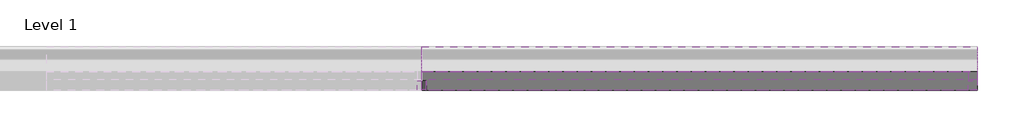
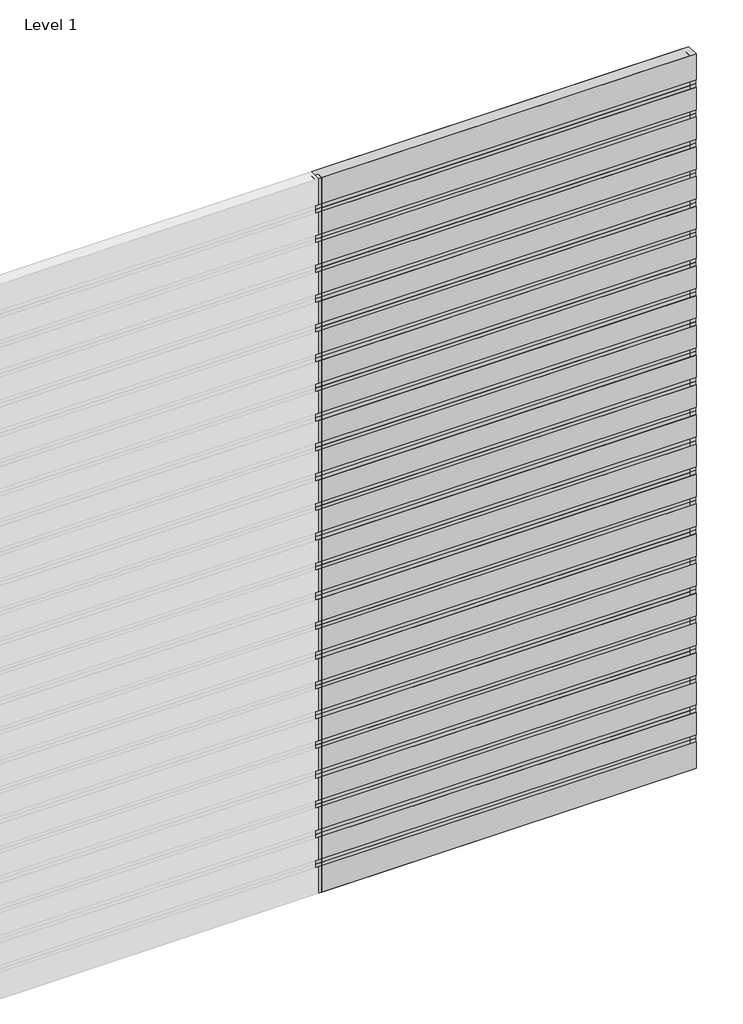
# One storey, part 2 of 2: 59 members, 48 plates.
"""IFC4 building model written with IfcOpenShell, lengths in millimetres."""

from ifc_helpers import new_model, si_unit, origin, place, context, project, spatial, transform, mapped, element, save
from components import rectangular_mullion_dafef153, rectangular_mullion_552ac5bc, rectangular_mullion_b779000f, empty_system_panel_empty_4dce7524, empty_system_panel_empty_164fccf4, empty_system_panel_empty_839ed214

model = new_model("IFC4")

# Units and contexts
model_context = context("Model", 3, world=origin())
ifc_project = project(units=[si_unit("LENGTHUNIT", "METRE", prefix="MILLI")], contexts=[model_context])

# Site, building, storey
site = spatial("IfcSite", under=ifc_project)
building = spatial("IfcBuilding", under=site)
storey = spatial("IfcBuildingStorey", under=building, Name="Level 1", Elevation=0.0)

# Members
placement = place(None, origin())
rectangular_mullion_shape = rectangular_mullion_dafef153(model_context)
element("IfcMember", 1, ObjectType="Rectangular Mullion : RSen_21_CWM_blade - 250 ellips - 45°_gen_duco projects", at=placement, inside=storey, context=model_context, shape_type="MappedRepresentation", body=[
    mapped(rectangular_mullion_shape, transform((3000.0, 3000.0, 3250.0), x_axis=(0.0, 0.0, 1.0), y_axis=(0.0, 1.0, 0.0), z_axis=(-1.0, 0.0, 0.0))),
])
element("IfcMember", 2, ObjectType="Rectangular Mullion : RSen_21_CWM_blade - 250 ellips - 45°_gen_duco projects", at=placement, inside=storey, context=model_context, shape_type="MappedRepresentation", body=[
    mapped(rectangular_mullion_shape, transform((3000.0, 3000.0, 3500.0), x_axis=(0.0, 0.0, 1.0), y_axis=(0.0, 1.0, 0.0), z_axis=(-1.0, 0.0, 0.0))),
])
element("IfcMember", 3, ObjectType="Rectangular Mullion : RSen_21_CWM_blade - 250 ellips - 45°_gen_duco projects", at=placement, inside=storey, context=model_context, shape_type="MappedRepresentation", body=[
    mapped(rectangular_mullion_shape, transform((3000.0, 3000.0, 3750.0), x_axis=(0.0, 0.0, 1.0), y_axis=(0.0, 1.0, 0.0), z_axis=(-1.0, 0.0, 0.0))),
])
element("IfcMember", 4, ObjectType="Rectangular Mullion : RSen_21_CWM_blade - 250 ellips - 45°_gen_duco projects", at=placement, inside=storey, context=model_context, shape_type="MappedRepresentation", body=[
    mapped(rectangular_mullion_shape, transform((3000.0, 3000.0, 4000.0), x_axis=(0.0, 0.0, 1.0), y_axis=(0.0, 1.0, 0.0), z_axis=(-1.0, 0.0, 0.0))),
])
element("IfcMember", 5, ObjectType="Rectangular Mullion : RSen_21_CWM_blade - 250 ellips - 45°_gen_duco projects", at=placement, inside=storey, context=model_context, shape_type="MappedRepresentation", body=[
    mapped(rectangular_mullion_shape, transform((3000.0, 3000.0, 4250.0), x_axis=(0.0, 0.0, 1.0), y_axis=(0.0, 1.0, 0.0), z_axis=(-1.0, 0.0, 0.0))),
])
element("IfcMember", 6, ObjectType="Rectangular Mullion : RSen_21_CWM_blade - 250 ellips - 45°_gen_duco projects", at=placement, inside=storey, context=model_context, shape_type="MappedRepresentation", body=[
    mapped(rectangular_mullion_shape, transform((3000.0, 3000.0, 4500.0), x_axis=(0.0, 0.0, 1.0), y_axis=(0.0, 1.0, 0.0), z_axis=(-1.0, 0.0, 0.0))),
])
element("IfcMember", 7, ObjectType="Rectangular Mullion : RSen_21_CWM_blade - 250 ellips - 45°_gen_duco projects", at=placement, inside=storey, context=model_context, shape_type="MappedRepresentation", body=[
    mapped(rectangular_mullion_shape, transform((3000.0, 3000.0, 4750.0), x_axis=(0.0, 0.0, 1.0), y_axis=(0.0, 1.0, 0.0), z_axis=(-1.0, 0.0, 0.0))),
])
element("IfcMember", 8, ObjectType="Rectangular Mullion : RSen_21_CWM_blade - 250 ellips - 45°_gen_duco projects", at=placement, inside=storey, context=model_context, shape_type="MappedRepresentation", body=[
    mapped(rectangular_mullion_shape, transform((3000.0, 3000.0, 5000.0), x_axis=(0.0, 0.0, 1.0), y_axis=(0.0, 1.0, 0.0), z_axis=(-1.0, 0.0, 0.0))),
])
element("IfcMember", 9, ObjectType="Rectangular Mullion : RSen_21_CWM_blade - 250 ellips - 45°_gen_duco projects", at=placement, inside=storey, context=model_context, shape_type="MappedRepresentation", body=[
    mapped(rectangular_mullion_shape, transform((3000.0, 3000.0, 5250.0), x_axis=(0.0, 0.0, 1.0), y_axis=(0.0, 1.0, 0.0), z_axis=(-1.0, 0.0, 0.0))),
])
element("IfcMember", 10, ObjectType="Rectangular Mullion : RSen_21_CWM_blade - 250 ellips - 45°_gen_duco projects", at=placement, inside=storey, context=model_context, shape_type="MappedRepresentation", body=[
    mapped(rectangular_mullion_shape, transform((3000.0, 3000.0, 5500.0), x_axis=(0.0, 0.0, 1.0), y_axis=(0.0, 1.0, 0.0), z_axis=(-1.0, 0.0, 0.0))),
])
element("IfcMember", 11, ObjectType="Rectangular Mullion : RSen_21_CWM_blade - 250 ellips - 45°_gen_duco projects", at=placement, inside=storey, context=model_context, shape_type="MappedRepresentation", body=[
    mapped(rectangular_mullion_shape, transform((3000.0, 3000.0, 5750.0), x_axis=(0.0, 0.0, 1.0), y_axis=(0.0, 1.0, 0.0), z_axis=(-1.0, 0.0, 0.0))),
])
rectangular_mullion_2_shape = rectangular_mullion_552ac5bc(model_context)
element("IfcMember", 12, ObjectType="Rectangular Mullion : RSen_21_CWM_support profile 50x50_gen_duco projects", at=placement, inside=storey, context=model_context, shape_type="MappedRepresentation", body=[
    mapped(rectangular_mullion_2_shape, transform((3000.0, 3000.0, 0.0), x_axis=(-1.0, 0.0, 0.0), y_axis=(0.0, 1.0, 0.0), z_axis=(0.0, 0.0, -1.0))),
])
element("IfcMember", 13, ObjectType="Rectangular Mullion : RSen_21_CWM_support profile 50x50_gen_duco projects", at=placement, inside=storey, context=model_context, shape_type="MappedRepresentation", body=[
    mapped(rectangular_mullion_2_shape, transform((3000.0, 3000.0, 250.0), x_axis=(-1.0, 0.0, 0.0), y_axis=(0.0, 1.0, 0.0), z_axis=(0.0, 0.0, -1.0))),
])
element("IfcMember", 14, ObjectType="Rectangular Mullion : RSen_21_CWM_support profile 50x50_gen_duco projects", at=placement, inside=storey, context=model_context, shape_type="MappedRepresentation", body=[
    mapped(rectangular_mullion_2_shape, transform((3000.0, 3000.0, 500.0), x_axis=(-1.0, 0.0, 0.0), y_axis=(0.0, 1.0, 0.0), z_axis=(0.0, 0.0, -1.0))),
])
element("IfcMember", 15, ObjectType="Rectangular Mullion : RSen_21_CWM_support profile 50x50_gen_duco projects", at=placement, inside=storey, context=model_context, shape_type="MappedRepresentation", body=[
    mapped(rectangular_mullion_2_shape, transform((3000.0, 3000.0, 750.0), x_axis=(-1.0, 0.0, 0.0), y_axis=(0.0, 1.0, 0.0), z_axis=(0.0, 0.0, -1.0))),
])
element("IfcMember", 16, ObjectType="Rectangular Mullion : RSen_21_CWM_support profile 50x50_gen_duco projects", at=placement, inside=storey, context=model_context, shape_type="MappedRepresentation", body=[
    mapped(rectangular_mullion_2_shape, transform((3000.0, 3000.0, 1000.0), x_axis=(-1.0, 0.0, 0.0), y_axis=(0.0, 1.0, 0.0), z_axis=(0.0, 0.0, -1.0))),
])
element("IfcMember", 17, ObjectType="Rectangular Mullion : RSen_21_CWM_support profile 50x50_gen_duco projects", at=placement, inside=storey, context=model_context, shape_type="MappedRepresentation", body=[
    mapped(rectangular_mullion_2_shape, transform((3000.0, 3000.0, 1250.0), x_axis=(-1.0, 0.0, 0.0), y_axis=(0.0, 1.0, 0.0), z_axis=(0.0, 0.0, -1.0))),
])
element("IfcMember", 18, ObjectType="Rectangular Mullion : RSen_21_CWM_support profile 50x50_gen_duco projects", at=placement, inside=storey, context=model_context, shape_type="MappedRepresentation", body=[
    mapped(rectangular_mullion_2_shape, transform((3000.0, 3000.0, 1500.0), x_axis=(-1.0, 0.0, 0.0), y_axis=(0.0, 1.0, 0.0), z_axis=(0.0, 0.0, -1.0))),
])
element("IfcMember", 19, ObjectType="Rectangular Mullion : RSen_21_CWM_support profile 50x50_gen_duco projects", at=placement, inside=storey, context=model_context, shape_type="MappedRepresentation", body=[
    mapped(rectangular_mullion_2_shape, transform((3000.0, 3000.0, 1750.0), x_axis=(-1.0, 0.0, 0.0), y_axis=(0.0, 1.0, 0.0), z_axis=(0.0, 0.0, -1.0))),
])
element("IfcMember", 20, ObjectType="Rectangular Mullion : RSen_21_CWM_support profile 50x50_gen_duco projects", at=placement, inside=storey, context=model_context, shape_type="MappedRepresentation", body=[
    mapped(rectangular_mullion_2_shape, transform((3000.0, 3000.0, 2000.0), x_axis=(-1.0, 0.0, 0.0), y_axis=(0.0, 1.0, 0.0), z_axis=(0.0, 0.0, -1.0))),
])
element("IfcMember", 21, ObjectType="Rectangular Mullion : RSen_21_CWM_support profile 50x50_gen_duco projects", at=placement, inside=storey, context=model_context, shape_type="MappedRepresentation", body=[
    mapped(rectangular_mullion_2_shape, transform((3000.0, 3000.0, 2250.0), x_axis=(-1.0, 0.0, 0.0), y_axis=(0.0, 1.0, 0.0), z_axis=(0.0, 0.0, -1.0))),
])
element("IfcMember", 22, ObjectType="Rectangular Mullion : RSen_21_CWM_support profile 50x50_gen_duco projects", at=placement, inside=storey, context=model_context, shape_type="MappedRepresentation", body=[
    mapped(rectangular_mullion_2_shape, transform((3000.0, 3000.0, 2500.0), x_axis=(-1.0, 0.0, 0.0), y_axis=(0.0, 1.0, 0.0), z_axis=(0.0, 0.0, -1.0))),
])
element("IfcMember", 23, ObjectType="Rectangular Mullion : RSen_21_CWM_support profile 50x50_gen_duco projects", at=placement, inside=storey, context=model_context, shape_type="MappedRepresentation", body=[
    mapped(rectangular_mullion_2_shape, transform((3000.0, 3000.0, 2750.0), x_axis=(-1.0, 0.0, 0.0), y_axis=(0.0, 1.0, 0.0), z_axis=(0.0, 0.0, -1.0))),
])
element("IfcMember", 24, ObjectType="Rectangular Mullion : RSen_21_CWM_support profile 50x50_gen_duco projects", at=placement, inside=storey, context=model_context, shape_type="MappedRepresentation", body=[
    mapped(rectangular_mullion_2_shape, transform((3000.0, 3000.0, 3000.0), x_axis=(-1.0, 0.0, 0.0), y_axis=(0.0, 1.0, 0.0), z_axis=(0.0, 0.0, -1.0))),
])
element("IfcMember", 25, ObjectType="Rectangular Mullion : RSen_21_CWM_support profile 50x50_gen_duco projects", at=placement, inside=storey, context=model_context, shape_type="MappedRepresentation", body=[
    mapped(rectangular_mullion_2_shape, transform((3000.0, 3000.0, 3250.0), x_axis=(-1.0, 0.0, 0.0), y_axis=(0.0, 1.0, 0.0), z_axis=(0.0, 0.0, -1.0))),
])
element("IfcMember", 26, ObjectType="Rectangular Mullion : RSen_21_CWM_support profile 50x50_gen_duco projects", at=placement, inside=storey, context=model_context, shape_type="MappedRepresentation", body=[
    mapped(rectangular_mullion_2_shape, transform((3000.0, 3000.0, 3500.0), x_axis=(-1.0, 0.0, 0.0), y_axis=(0.0, 1.0, 0.0), z_axis=(0.0, 0.0, -1.0))),
])
element("IfcMember", 27, ObjectType="Rectangular Mullion : RSen_21_CWM_support profile 50x50_gen_duco projects", at=placement, inside=storey, context=model_context, shape_type="MappedRepresentation", body=[
    mapped(rectangular_mullion_2_shape, transform((3000.0, 3000.0, 3750.0), x_axis=(-1.0, 0.0, 0.0), y_axis=(0.0, 1.0, 0.0), z_axis=(0.0, 0.0, -1.0))),
])
element("IfcMember", 28, ObjectType="Rectangular Mullion : RSen_21_CWM_support profile 50x50_gen_duco projects", at=placement, inside=storey, context=model_context, shape_type="MappedRepresentation", body=[
    mapped(rectangular_mullion_2_shape, transform((3000.0, 3000.0, 4000.0), x_axis=(-1.0, 0.0, 0.0), y_axis=(0.0, 1.0, 0.0), z_axis=(0.0, 0.0, -1.0))),
])
element("IfcMember", 29, ObjectType="Rectangular Mullion : RSen_21_CWM_support profile 50x50_gen_duco projects", at=placement, inside=storey, context=model_context, shape_type="MappedRepresentation", body=[
    mapped(rectangular_mullion_2_shape, transform((3000.0, 3000.0, 4250.0), x_axis=(-1.0, 0.0, 0.0), y_axis=(0.0, 1.0, 0.0), z_axis=(0.0, 0.0, -1.0))),
])
element("IfcMember", 30, ObjectType="Rectangular Mullion : RSen_21_CWM_support profile 50x50_gen_duco projects", at=placement, inside=storey, context=model_context, shape_type="MappedRepresentation", body=[
    mapped(rectangular_mullion_2_shape, transform((3000.0, 3000.0, 4500.0), x_axis=(-1.0, 0.0, 0.0), y_axis=(0.0, 1.0, 0.0), z_axis=(0.0, 0.0, -1.0))),
])
element("IfcMember", 31, ObjectType="Rectangular Mullion : RSen_21_CWM_support profile 50x50_gen_duco projects", at=placement, inside=storey, context=model_context, shape_type="MappedRepresentation", body=[
    mapped(rectangular_mullion_2_shape, transform((3000.0, 3000.0, 4750.0), x_axis=(-1.0, 0.0, 0.0), y_axis=(0.0, 1.0, 0.0), z_axis=(0.0, 0.0, -1.0))),
])
element("IfcMember", 32, ObjectType="Rectangular Mullion : RSen_21_CWM_support profile 50x50_gen_duco projects", at=placement, inside=storey, context=model_context, shape_type="MappedRepresentation", body=[
    mapped(rectangular_mullion_2_shape, transform((3000.0, 3000.0, 5000.0), x_axis=(-1.0, 0.0, 0.0), y_axis=(0.0, 1.0, 0.0), z_axis=(0.0, 0.0, -1.0))),
])
element("IfcMember", 33, ObjectType="Rectangular Mullion : RSen_21_CWM_support profile 50x50_gen_duco projects", at=placement, inside=storey, context=model_context, shape_type="MappedRepresentation", body=[
    mapped(rectangular_mullion_2_shape, transform((3000.0, 3000.0, 5250.0), x_axis=(-1.0, 0.0, 0.0), y_axis=(0.0, 1.0, 0.0), z_axis=(0.0, 0.0, -1.0))),
])
element("IfcMember", 34, ObjectType="Rectangular Mullion : RSen_21_CWM_support profile 50x50_gen_duco projects", at=placement, inside=storey, context=model_context, shape_type="MappedRepresentation", body=[
    mapped(rectangular_mullion_2_shape, transform((3000.0, 3000.0, 5500.0), x_axis=(-1.0, 0.0, 0.0), y_axis=(0.0, 1.0, 0.0), z_axis=(0.0, 0.0, -1.0))),
])
element("IfcMember", 35, ObjectType="Rectangular Mullion : RSen_21_CWM_support profile 50x50_gen_duco projects", at=placement, inside=storey, context=model_context, shape_type="MappedRepresentation", body=[
    mapped(rectangular_mullion_2_shape, transform((3000.0, 3000.0, 5750.0), x_axis=(-1.0, 0.0, 0.0), y_axis=(0.0, 1.0, 0.0), z_axis=(0.0, 0.0, -1.0))),
])
rectangular_mullion_3_shape = rectangular_mullion_b779000f(model_context)
element("IfcMember", 36, ObjectType="Rectangular Mullion : RSen_21_CWM_support profile 50x50 - right_gen_duco projects", at=placement, inside=storey, context=model_context, shape_type="MappedRepresentation", body=[
    mapped(rectangular_mullion_3_shape, transform((6000.0, 3000.0, 6000.0), x_axis=(1.0, 0.0, 0.0), y_axis=(0.0, 1.0, 0.0), z_axis=(0.0, 0.0, 1.0))),
])
element("IfcMember", 37, ObjectType="Rectangular Mullion : RSen_21_CWM_support profile 50x50 - right_gen_duco projects", at=placement, inside=storey, context=model_context, shape_type="MappedRepresentation", body=[
    mapped(rectangular_mullion_3_shape, transform((6000.0, 3000.0, 250.0), x_axis=(1.0, 0.0, 0.0), y_axis=(0.0, 1.0, 0.0), z_axis=(0.0, 0.0, 1.0))),
])
element("IfcMember", 38, ObjectType="Rectangular Mullion : RSen_21_CWM_support profile 50x50 - right_gen_duco projects", at=placement, inside=storey, context=model_context, shape_type="MappedRepresentation", body=[
    mapped(rectangular_mullion_3_shape, transform((6000.0, 3000.0, 500.0), x_axis=(1.0, 0.0, 0.0), y_axis=(0.0, 1.0, 0.0), z_axis=(0.0, 0.0, 1.0))),
])
element("IfcMember", 39, ObjectType="Rectangular Mullion : RSen_21_CWM_support profile 50x50 - right_gen_duco projects", at=placement, inside=storey, context=model_context, shape_type="MappedRepresentation", body=[
    mapped(rectangular_mullion_3_shape, transform((6000.0, 3000.0, 750.0), x_axis=(1.0, 0.0, 0.0), y_axis=(0.0, 1.0, 0.0), z_axis=(0.0, 0.0, 1.0))),
])
element("IfcMember", 40, ObjectType="Rectangular Mullion : RSen_21_CWM_support profile 50x50 - right_gen_duco projects", at=placement, inside=storey, context=model_context, shape_type="MappedRepresentation", body=[
    mapped(rectangular_mullion_3_shape, transform((6000.0, 3000.0, 1000.0), x_axis=(1.0, 0.0, 0.0), y_axis=(0.0, 1.0, 0.0), z_axis=(0.0, 0.0, 1.0))),
])
element("IfcMember", 41, ObjectType="Rectangular Mullion : RSen_21_CWM_support profile 50x50 - right_gen_duco projects", at=placement, inside=storey, context=model_context, shape_type="MappedRepresentation", body=[
    mapped(rectangular_mullion_3_shape, transform((6000.0, 3000.0, 1250.0), x_axis=(1.0, 0.0, 0.0), y_axis=(0.0, 1.0, 0.0), z_axis=(0.0, 0.0, 1.0))),
])
element("IfcMember", 42, ObjectType="Rectangular Mullion : RSen_21_CWM_support profile 50x50 - right_gen_duco projects", at=placement, inside=storey, context=model_context, shape_type="MappedRepresentation", body=[
    mapped(rectangular_mullion_3_shape, transform((6000.0, 3000.0, 1500.0), x_axis=(1.0, 0.0, 0.0), y_axis=(0.0, 1.0, 0.0), z_axis=(0.0, 0.0, 1.0))),
])
element("IfcMember", 43, ObjectType="Rectangular Mullion : RSen_21_CWM_support profile 50x50 - right_gen_duco projects", at=placement, inside=storey, context=model_context, shape_type="MappedRepresentation", body=[
    mapped(rectangular_mullion_3_shape, transform((6000.0, 3000.0, 1750.0), x_axis=(1.0, 0.0, 0.0), y_axis=(0.0, 1.0, 0.0), z_axis=(0.0, 0.0, 1.0))),
])
element("IfcMember", 44, ObjectType="Rectangular Mullion : RSen_21_CWM_support profile 50x50 - right_gen_duco projects", at=placement, inside=storey, context=model_context, shape_type="MappedRepresentation", body=[
    mapped(rectangular_mullion_3_shape, transform((6000.0, 3000.0, 2000.0), x_axis=(1.0, 0.0, 0.0), y_axis=(0.0, 1.0, 0.0), z_axis=(0.0, 0.0, 1.0))),
])
element("IfcMember", 45, ObjectType="Rectangular Mullion : RSen_21_CWM_support profile 50x50 - right_gen_duco projects", at=placement, inside=storey, context=model_context, shape_type="MappedRepresentation", body=[
    mapped(rectangular_mullion_3_shape, transform((6000.0, 3000.0, 2250.0), x_axis=(1.0, 0.0, 0.0), y_axis=(0.0, 1.0, 0.0), z_axis=(0.0, 0.0, 1.0))),
])
element("IfcMember", 46, ObjectType="Rectangular Mullion : RSen_21_CWM_support profile 50x50 - right_gen_duco projects", at=placement, inside=storey, context=model_context, shape_type="MappedRepresentation", body=[
    mapped(rectangular_mullion_3_shape, transform((6000.0, 3000.0, 2500.0), x_axis=(1.0, 0.0, 0.0), y_axis=(0.0, 1.0, 0.0), z_axis=(0.0, 0.0, 1.0))),
])
element("IfcMember", 47, ObjectType="Rectangular Mullion : RSen_21_CWM_support profile 50x50 - right_gen_duco projects", at=placement, inside=storey, context=model_context, shape_type="MappedRepresentation", body=[
    mapped(rectangular_mullion_3_shape, transform((6000.0, 3000.0, 2750.0), x_axis=(1.0, 0.0, 0.0), y_axis=(0.0, 1.0, 0.0), z_axis=(0.0, 0.0, 1.0))),
])
element("IfcMember", 48, ObjectType="Rectangular Mullion : RSen_21_CWM_support profile 50x50 - right_gen_duco projects", at=placement, inside=storey, context=model_context, shape_type="MappedRepresentation", body=[
    mapped(rectangular_mullion_3_shape, transform((6000.0, 3000.0, 3000.0), x_axis=(1.0, 0.0, 0.0), y_axis=(0.0, 1.0, 0.0), z_axis=(0.0, 0.0, 1.0))),
])
element("IfcMember", 49, ObjectType="Rectangular Mullion : RSen_21_CWM_support profile 50x50 - right_gen_duco projects", at=placement, inside=storey, context=model_context, shape_type="MappedRepresentation", body=[
    mapped(rectangular_mullion_3_shape, transform((6000.0, 3000.0, 3250.0), x_axis=(1.0, 0.0, 0.0), y_axis=(0.0, 1.0, 0.0), z_axis=(0.0, 0.0, 1.0))),
])
element("IfcMember", 50, ObjectType="Rectangular Mullion : RSen_21_CWM_support profile 50x50 - right_gen_duco projects", at=placement, inside=storey, context=model_context, shape_type="MappedRepresentation", body=[
    mapped(rectangular_mullion_3_shape, transform((6000.0, 3000.0, 3500.0), x_axis=(1.0, 0.0, 0.0), y_axis=(0.0, 1.0, 0.0), z_axis=(0.0, 0.0, 1.0))),
])
element("IfcMember", 51, ObjectType="Rectangular Mullion : RSen_21_CWM_support profile 50x50 - right_gen_duco projects", at=placement, inside=storey, context=model_context, shape_type="MappedRepresentation", body=[
    mapped(rectangular_mullion_3_shape, transform((6000.0, 3000.0, 3750.0), x_axis=(1.0, 0.0, 0.0), y_axis=(0.0, 1.0, 0.0), z_axis=(0.0, 0.0, 1.0))),
])
element("IfcMember", 52, ObjectType="Rectangular Mullion : RSen_21_CWM_support profile 50x50 - right_gen_duco projects", at=placement, inside=storey, context=model_context, shape_type="MappedRepresentation", body=[
    mapped(rectangular_mullion_3_shape, transform((6000.0, 3000.0, 4000.0), x_axis=(1.0, 0.0, 0.0), y_axis=(0.0, 1.0, 0.0), z_axis=(0.0, 0.0, 1.0))),
])
element("IfcMember", 53, ObjectType="Rectangular Mullion : RSen_21_CWM_support profile 50x50 - right_gen_duco projects", at=placement, inside=storey, context=model_context, shape_type="MappedRepresentation", body=[
    mapped(rectangular_mullion_3_shape, transform((6000.0, 3000.0, 4250.0), x_axis=(1.0, 0.0, 0.0), y_axis=(0.0, 1.0, 0.0), z_axis=(0.0, 0.0, 1.0))),
])
element("IfcMember", 54, ObjectType="Rectangular Mullion : RSen_21_CWM_support profile 50x50 - right_gen_duco projects", at=placement, inside=storey, context=model_context, shape_type="MappedRepresentation", body=[
    mapped(rectangular_mullion_3_shape, transform((6000.0, 3000.0, 4500.0), x_axis=(1.0, 0.0, 0.0), y_axis=(0.0, 1.0, 0.0), z_axis=(0.0, 0.0, 1.0))),
])
element("IfcMember", 55, ObjectType="Rectangular Mullion : RSen_21_CWM_support profile 50x50 - right_gen_duco projects", at=placement, inside=storey, context=model_context, shape_type="MappedRepresentation", body=[
    mapped(rectangular_mullion_3_shape, transform((6000.0, 3000.0, 4750.0), x_axis=(1.0, 0.0, 0.0), y_axis=(0.0, 1.0, 0.0), z_axis=(0.0, 0.0, 1.0))),
])
element("IfcMember", 56, ObjectType="Rectangular Mullion : RSen_21_CWM_support profile 50x50 - right_gen_duco projects", at=placement, inside=storey, context=model_context, shape_type="MappedRepresentation", body=[
    mapped(rectangular_mullion_3_shape, transform((6000.0, 3000.0, 5000.0), x_axis=(1.0, 0.0, 0.0), y_axis=(0.0, 1.0, 0.0), z_axis=(0.0, 0.0, 1.0))),
])
element("IfcMember", 57, ObjectType="Rectangular Mullion : RSen_21_CWM_support profile 50x50 - right_gen_duco projects", at=placement, inside=storey, context=model_context, shape_type="MappedRepresentation", body=[
    mapped(rectangular_mullion_3_shape, transform((6000.0, 3000.0, 5250.0), x_axis=(1.0, 0.0, 0.0), y_axis=(0.0, 1.0, 0.0), z_axis=(0.0, 0.0, 1.0))),
])
element("IfcMember", 58, ObjectType="Rectangular Mullion : RSen_21_CWM_support profile 50x50 - right_gen_duco projects", at=placement, inside=storey, context=model_context, shape_type="MappedRepresentation", body=[
    mapped(rectangular_mullion_3_shape, transform((6000.0, 3000.0, 5500.0), x_axis=(1.0, 0.0, 0.0), y_axis=(0.0, 1.0, 0.0), z_axis=(0.0, 0.0, 1.0))),
])
element("IfcMember", 59, ObjectType="Rectangular Mullion : RSen_21_CWM_support profile 50x50 - right_gen_duco projects", at=placement, inside=storey, context=model_context, shape_type="MappedRepresentation", body=[
    mapped(rectangular_mullion_3_shape, transform((6000.0, 3000.0, 5750.0), x_axis=(1.0, 0.0, 0.0), y_axis=(0.0, 1.0, 0.0), z_axis=(0.0, 0.0, 1.0))),
])

# Plates
empty_system_panel_empty_shape = empty_system_panel_empty_4dce7524(model_context)
element("IfcPlate", 60, ObjectType="Empty System Panel : Empty", at=placement, inside=storey, context=model_context, shape_type="MappedRepresentation", body=[
    mapped(empty_system_panel_empty_shape, transform((4500.0, 3000.0, 0.0), x_axis=(-1.0, 0.0, 0.0), y_axis=(0.0, -1.0, 0.0), z_axis=(0.0, 0.0, 1.0))),
])
element("IfcPlate", 61, ObjectType="Empty System Panel : Empty", at=placement, inside=storey, context=model_context, shape_type="MappedRepresentation", body=[
    mapped(empty_system_panel_empty_shape, transform((4500.0, 3000.0, 5780.759145), x_axis=(-1.0, 0.0, 0.0), y_axis=(0.0, -1.0, 0.0), z_axis=(0.0, 0.0, 1.0))),
])
empty_system_panel_empty_2_shape = empty_system_panel_empty_164fccf4(model_context)
element("IfcPlate", 62, ObjectType="Empty System Panel : Empty", at=placement, inside=storey, context=model_context, shape_type="MappedRepresentation", body=[
    mapped(empty_system_panel_empty_2_shape, transform((4500.0, 3000.0, 280.759145), x_axis=(-1.0, 0.0, 0.0), y_axis=(0.0, -1.0, 0.0), z_axis=(0.0, 0.0, 1.0))),
])
element("IfcPlate", 63, ObjectType="Empty System Panel : Empty", at=placement, inside=storey, context=model_context, shape_type="MappedRepresentation", body=[
    mapped(empty_system_panel_empty_2_shape, transform((4500.0, 3000.0, 530.759145), x_axis=(-1.0, 0.0, 0.0), y_axis=(0.0, -1.0, 0.0), z_axis=(0.0, 0.0, 1.0))),
])
element("IfcPlate", 64, ObjectType="Empty System Panel : Empty", at=placement, inside=storey, context=model_context, shape_type="MappedRepresentation", body=[
    mapped(empty_system_panel_empty_2_shape, transform((4500.0, 3000.0, 780.759145), x_axis=(-1.0, 0.0, 0.0), y_axis=(0.0, -1.0, 0.0), z_axis=(0.0, 0.0, 1.0))),
])
element("IfcPlate", 65, ObjectType="Empty System Panel : Empty", at=placement, inside=storey, context=model_context, shape_type="MappedRepresentation", body=[
    mapped(empty_system_panel_empty_2_shape, transform((4500.0, 3000.0, 1030.759145), x_axis=(-1.0, 0.0, 0.0), y_axis=(0.0, -1.0, 0.0), z_axis=(0.0, 0.0, 1.0))),
])
element("IfcPlate", 66, ObjectType="Empty System Panel : Empty", at=placement, inside=storey, context=model_context, shape_type="MappedRepresentation", body=[
    mapped(empty_system_panel_empty_2_shape, transform((4500.0, 3000.0, 1280.759145), x_axis=(-1.0, 0.0, 0.0), y_axis=(0.0, -1.0, 0.0), z_axis=(0.0, 0.0, 1.0))),
])
element("IfcPlate", 67, ObjectType="Empty System Panel : Empty", at=placement, inside=storey, context=model_context, shape_type="MappedRepresentation", body=[
    mapped(empty_system_panel_empty_2_shape, transform((4500.0, 3000.0, 1530.759145), x_axis=(-1.0, 0.0, 0.0), y_axis=(0.0, -1.0, 0.0), z_axis=(0.0, 0.0, 1.0))),
])
element("IfcPlate", 68, ObjectType="Empty System Panel : Empty", at=placement, inside=storey, context=model_context, shape_type="MappedRepresentation", body=[
    mapped(empty_system_panel_empty_2_shape, transform((4500.0, 3000.0, 1780.759145), x_axis=(-1.0, 0.0, 0.0), y_axis=(0.0, -1.0, 0.0), z_axis=(0.0, 0.0, 1.0))),
])
element("IfcPlate", 69, ObjectType="Empty System Panel : Empty", at=placement, inside=storey, context=model_context, shape_type="MappedRepresentation", body=[
    mapped(empty_system_panel_empty_2_shape, transform((4500.0, 3000.0, 2030.759145), x_axis=(-1.0, 0.0, 0.0), y_axis=(0.0, -1.0, 0.0), z_axis=(0.0, 0.0, 1.0))),
])
element("IfcPlate", 70, ObjectType="Empty System Panel : Empty", at=placement, inside=storey, context=model_context, shape_type="MappedRepresentation", body=[
    mapped(empty_system_panel_empty_2_shape, transform((4500.0, 3000.0, 2280.759145), x_axis=(-1.0, 0.0, 0.0), y_axis=(0.0, -1.0, 0.0), z_axis=(0.0, 0.0, 1.0))),
])
element("IfcPlate", 71, ObjectType="Empty System Panel : Empty", at=placement, inside=storey, context=model_context, shape_type="MappedRepresentation", body=[
    mapped(empty_system_panel_empty_2_shape, transform((4500.0, 3000.0, 2530.759145), x_axis=(-1.0, 0.0, 0.0), y_axis=(0.0, -1.0, 0.0), z_axis=(0.0, 0.0, 1.0))),
])
element("IfcPlate", 72, ObjectType="Empty System Panel : Empty", at=placement, inside=storey, context=model_context, shape_type="MappedRepresentation", body=[
    mapped(empty_system_panel_empty_2_shape, transform((4500.0, 3000.0, 2780.759145), x_axis=(-1.0, 0.0, 0.0), y_axis=(0.0, -1.0, 0.0), z_axis=(0.0, 0.0, 1.0))),
])
element("IfcPlate", 73, ObjectType="Empty System Panel : Empty", at=placement, inside=storey, context=model_context, shape_type="MappedRepresentation", body=[
    mapped(empty_system_panel_empty_2_shape, transform((4500.0, 3000.0, 3030.759145), x_axis=(-1.0, 0.0, 0.0), y_axis=(0.0, -1.0, 0.0), z_axis=(0.0, 0.0, 1.0))),
])
element("IfcPlate", 74, ObjectType="Empty System Panel : Empty", at=placement, inside=storey, context=model_context, shape_type="MappedRepresentation", body=[
    mapped(empty_system_panel_empty_2_shape, transform((4500.0, 3000.0, 3280.759145), x_axis=(-1.0, 0.0, 0.0), y_axis=(0.0, -1.0, 0.0), z_axis=(0.0, 0.0, 1.0))),
])
element("IfcPlate", 75, ObjectType="Empty System Panel : Empty", at=placement, inside=storey, context=model_context, shape_type="MappedRepresentation", body=[
    mapped(empty_system_panel_empty_2_shape, transform((4500.0, 3000.0, 3530.759145), x_axis=(-1.0, 0.0, 0.0), y_axis=(0.0, -1.0, 0.0), z_axis=(0.0, 0.0, 1.0))),
])
element("IfcPlate", 76, ObjectType="Empty System Panel : Empty", at=placement, inside=storey, context=model_context, shape_type="MappedRepresentation", body=[
    mapped(empty_system_panel_empty_2_shape, transform((4500.0, 3000.0, 3780.759145), x_axis=(-1.0, 0.0, 0.0), y_axis=(0.0, -1.0, 0.0), z_axis=(0.0, 0.0, 1.0))),
])
element("IfcPlate", 77, ObjectType="Empty System Panel : Empty", at=placement, inside=storey, context=model_context, shape_type="MappedRepresentation", body=[
    mapped(empty_system_panel_empty_2_shape, transform((4500.0, 3000.0, 4030.759145), x_axis=(-1.0, 0.0, 0.0), y_axis=(0.0, -1.0, 0.0), z_axis=(0.0, 0.0, 1.0))),
])
element("IfcPlate", 78, ObjectType="Empty System Panel : Empty", at=placement, inside=storey, context=model_context, shape_type="MappedRepresentation", body=[
    mapped(empty_system_panel_empty_2_shape, transform((4500.0, 3000.0, 4280.759145), x_axis=(-1.0, 0.0, 0.0), y_axis=(0.0, -1.0, 0.0), z_axis=(0.0, 0.0, 1.0))),
])
element("IfcPlate", 79, ObjectType="Empty System Panel : Empty", at=placement, inside=storey, context=model_context, shape_type="MappedRepresentation", body=[
    mapped(empty_system_panel_empty_2_shape, transform((4500.0, 3000.0, 4530.759145), x_axis=(-1.0, 0.0, 0.0), y_axis=(0.0, -1.0, 0.0), z_axis=(0.0, 0.0, 1.0))),
])
element("IfcPlate", 80, ObjectType="Empty System Panel : Empty", at=placement, inside=storey, context=model_context, shape_type="MappedRepresentation", body=[
    mapped(empty_system_panel_empty_2_shape, transform((4500.0, 3000.0, 4780.759145), x_axis=(-1.0, 0.0, 0.0), y_axis=(0.0, -1.0, 0.0), z_axis=(0.0, 0.0, 1.0))),
])
element("IfcPlate", 81, ObjectType="Empty System Panel : Empty", at=placement, inside=storey, context=model_context, shape_type="MappedRepresentation", body=[
    mapped(empty_system_panel_empty_2_shape, transform((4500.0, 3000.0, 5030.759145), x_axis=(-1.0, 0.0, 0.0), y_axis=(0.0, -1.0, 0.0), z_axis=(0.0, 0.0, 1.0))),
])
element("IfcPlate", 82, ObjectType="Empty System Panel : Empty", at=placement, inside=storey, context=model_context, shape_type="MappedRepresentation", body=[
    mapped(empty_system_panel_empty_2_shape, transform((4500.0, 3000.0, 5280.759145), x_axis=(-1.0, 0.0, 0.0), y_axis=(0.0, -1.0, 0.0), z_axis=(0.0, 0.0, 1.0))),
])
element("IfcPlate", 83, ObjectType="Empty System Panel : Empty", at=placement, inside=storey, context=model_context, shape_type="MappedRepresentation", body=[
    mapped(empty_system_panel_empty_2_shape, transform((4500.0, 3000.0, 5530.759145), x_axis=(-1.0, 0.0, 0.0), y_axis=(0.0, -1.0, 0.0), z_axis=(0.0, 0.0, 1.0))),
])
empty_system_panel_empty_3_shape = empty_system_panel_empty_839ed214(model_context)
element("IfcPlate", 84, ObjectType="Empty System Panel : Empty", at=placement, inside=storey, context=model_context, shape_type="MappedRepresentation", body=[
    mapped(empty_system_panel_empty_3_shape, transform((4487.5, 3000.0, 0.0), x_axis=(-1.0, 0.0, 0.0), y_axis=(0.0, -1.0, 0.0), z_axis=(0.0, 0.0, 1.0))),
])
element("IfcPlate", 85, ObjectType="Empty System Panel : Empty", at=placement, inside=storey, context=model_context, shape_type="MappedRepresentation", body=[
    mapped(empty_system_panel_empty_3_shape, transform((4487.5, 3000.0, 250.0), x_axis=(-1.0, 0.0, 0.0), y_axis=(0.0, -1.0, 0.0), z_axis=(0.0, 0.0, 1.0))),
])
element("IfcPlate", 86, ObjectType="Empty System Panel : Empty", at=placement, inside=storey, context=model_context, shape_type="MappedRepresentation", body=[
    mapped(empty_system_panel_empty_3_shape, transform((4487.5, 3000.0, 500.0), x_axis=(-1.0, 0.0, 0.0), y_axis=(0.0, -1.0, 0.0), z_axis=(0.0, 0.0, 1.0))),
])
element("IfcPlate", 87, ObjectType="Empty System Panel : Empty", at=placement, inside=storey, context=model_context, shape_type="MappedRepresentation", body=[
    mapped(empty_system_panel_empty_3_shape, transform((4487.5, 3000.0, 750.0), x_axis=(-1.0, 0.0, 0.0), y_axis=(0.0, -1.0, 0.0), z_axis=(0.0, 0.0, 1.0))),
])
element("IfcPlate", 88, ObjectType="Empty System Panel : Empty", at=placement, inside=storey, context=model_context, shape_type="MappedRepresentation", body=[
    mapped(empty_system_panel_empty_3_shape, transform((4487.5, 3000.0, 1000.0), x_axis=(-1.0, 0.0, 0.0), y_axis=(0.0, -1.0, 0.0), z_axis=(0.0, 0.0, 1.0))),
])
element("IfcPlate", 89, ObjectType="Empty System Panel : Empty", at=placement, inside=storey, context=model_context, shape_type="MappedRepresentation", body=[
    mapped(empty_system_panel_empty_3_shape, transform((4487.5, 3000.0, 1250.0), x_axis=(-1.0, 0.0, 0.0), y_axis=(0.0, -1.0, 0.0), z_axis=(0.0, 0.0, 1.0))),
])
element("IfcPlate", 90, ObjectType="Empty System Panel : Empty", at=placement, inside=storey, context=model_context, shape_type="MappedRepresentation", body=[
    mapped(empty_system_panel_empty_3_shape, transform((4487.5, 3000.0, 1500.0), x_axis=(-1.0, 0.0, 0.0), y_axis=(0.0, -1.0, 0.0), z_axis=(0.0, 0.0, 1.0))),
])
element("IfcPlate", 91, ObjectType="Empty System Panel : Empty", at=placement, inside=storey, context=model_context, shape_type="MappedRepresentation", body=[
    mapped(empty_system_panel_empty_3_shape, transform((4487.5, 3000.0, 1750.0), x_axis=(-1.0, 0.0, 0.0), y_axis=(0.0, -1.0, 0.0), z_axis=(0.0, 0.0, 1.0))),
])
element("IfcPlate", 92, ObjectType="Empty System Panel : Empty", at=placement, inside=storey, context=model_context, shape_type="MappedRepresentation", body=[
    mapped(empty_system_panel_empty_3_shape, transform((4487.5, 3000.0, 2000.0), x_axis=(-1.0, 0.0, 0.0), y_axis=(0.0, -1.0, 0.0), z_axis=(0.0, 0.0, 1.0))),
])
element("IfcPlate", 93, ObjectType="Empty System Panel : Empty", at=placement, inside=storey, context=model_context, shape_type="MappedRepresentation", body=[
    mapped(empty_system_panel_empty_3_shape, transform((4487.5, 3000.0, 2250.0), x_axis=(-1.0, 0.0, 0.0), y_axis=(0.0, -1.0, 0.0), z_axis=(0.0, 0.0, 1.0))),
])
element("IfcPlate", 94, ObjectType="Empty System Panel : Empty", at=placement, inside=storey, context=model_context, shape_type="MappedRepresentation", body=[
    mapped(empty_system_panel_empty_3_shape, transform((4487.5, 3000.0, 2500.0), x_axis=(-1.0, 0.0, 0.0), y_axis=(0.0, -1.0, 0.0), z_axis=(0.0, 0.0, 1.0))),
])
element("IfcPlate", 95, ObjectType="Empty System Panel : Empty", at=placement, inside=storey, context=model_context, shape_type="MappedRepresentation", body=[
    mapped(empty_system_panel_empty_3_shape, transform((4487.5, 3000.0, 2750.0), x_axis=(-1.0, 0.0, 0.0), y_axis=(0.0, -1.0, 0.0), z_axis=(0.0, 0.0, 1.0))),
])
element("IfcPlate", 96, ObjectType="Empty System Panel : Empty", at=placement, inside=storey, context=model_context, shape_type="MappedRepresentation", body=[
    mapped(empty_system_panel_empty_3_shape, transform((4487.5, 3000.0, 3000.0), x_axis=(-1.0, 0.0, 0.0), y_axis=(0.0, -1.0, 0.0), z_axis=(0.0, 0.0, 1.0))),
])
element("IfcPlate", 97, ObjectType="Empty System Panel : Empty", at=placement, inside=storey, context=model_context, shape_type="MappedRepresentation", body=[
    mapped(empty_system_panel_empty_3_shape, transform((4487.5, 3000.0, 3250.0), x_axis=(-1.0, 0.0, 0.0), y_axis=(0.0, -1.0, 0.0), z_axis=(0.0, 0.0, 1.0))),
])
element("IfcPlate", 98, ObjectType="Empty System Panel : Empty", at=placement, inside=storey, context=model_context, shape_type="MappedRepresentation", body=[
    mapped(empty_system_panel_empty_3_shape, transform((4487.5, 3000.0, 3500.0), x_axis=(-1.0, 0.0, 0.0), y_axis=(0.0, -1.0, 0.0), z_axis=(0.0, 0.0, 1.0))),
])
element("IfcPlate", 99, ObjectType="Empty System Panel : Empty", at=placement, inside=storey, context=model_context, shape_type="MappedRepresentation", body=[
    mapped(empty_system_panel_empty_3_shape, transform((4487.5, 3000.0, 3750.0), x_axis=(-1.0, 0.0, 0.0), y_axis=(0.0, -1.0, 0.0), z_axis=(0.0, 0.0, 1.0))),
])
element("IfcPlate", 100, ObjectType="Empty System Panel : Empty", at=placement, inside=storey, context=model_context, shape_type="MappedRepresentation", body=[
    mapped(empty_system_panel_empty_3_shape, transform((4487.5, 3000.0, 4000.0), x_axis=(-1.0, 0.0, 0.0), y_axis=(0.0, -1.0, 0.0), z_axis=(0.0, 0.0, 1.0))),
])
element("IfcPlate", 101, ObjectType="Empty System Panel : Empty", at=placement, inside=storey, context=model_context, shape_type="MappedRepresentation", body=[
    mapped(empty_system_panel_empty_3_shape, transform((4487.5, 3000.0, 4250.0), x_axis=(-1.0, 0.0, 0.0), y_axis=(0.0, -1.0, 0.0), z_axis=(0.0, 0.0, 1.0))),
])
element("IfcPlate", 102, ObjectType="Empty System Panel : Empty", at=placement, inside=storey, context=model_context, shape_type="MappedRepresentation", body=[
    mapped(empty_system_panel_empty_3_shape, transform((4487.5, 3000.0, 4500.0), x_axis=(-1.0, 0.0, 0.0), y_axis=(0.0, -1.0, 0.0), z_axis=(0.0, 0.0, 1.0))),
])
element("IfcPlate", 103, ObjectType="Empty System Panel : Empty", at=placement, inside=storey, context=model_context, shape_type="MappedRepresentation", body=[
    mapped(empty_system_panel_empty_3_shape, transform((4487.5, 3000.0, 4750.0), x_axis=(-1.0, 0.0, 0.0), y_axis=(0.0, -1.0, 0.0), z_axis=(0.0, 0.0, 1.0))),
])
element("IfcPlate", 104, ObjectType="Empty System Panel : Empty", at=placement, inside=storey, context=model_context, shape_type="MappedRepresentation", body=[
    mapped(empty_system_panel_empty_3_shape, transform((4487.5, 3000.0, 5000.0), x_axis=(-1.0, 0.0, 0.0), y_axis=(0.0, -1.0, 0.0), z_axis=(0.0, 0.0, 1.0))),
])
element("IfcPlate", 105, ObjectType="Empty System Panel : Empty", at=placement, inside=storey, context=model_context, shape_type="MappedRepresentation", body=[
    mapped(empty_system_panel_empty_3_shape, transform((4487.5, 3000.0, 5250.0), x_axis=(-1.0, 0.0, 0.0), y_axis=(0.0, -1.0, 0.0), z_axis=(0.0, 0.0, 1.0))),
])
element("IfcPlate", 106, ObjectType="Empty System Panel : Empty", at=placement, inside=storey, context=model_context, shape_type="MappedRepresentation", body=[
    mapped(empty_system_panel_empty_3_shape, transform((4487.5, 3000.0, 5500.0), x_axis=(-1.0, 0.0, 0.0), y_axis=(0.0, -1.0, 0.0), z_axis=(0.0, 0.0, 1.0))),
])
element("IfcPlate", 107, ObjectType="Empty System Panel : Empty", at=placement, inside=storey, context=model_context, shape_type="MappedRepresentation", body=[
    mapped(empty_system_panel_empty_3_shape, transform((4487.5, 3000.0, 5750.0), x_axis=(-1.0, 0.0, 0.0), y_axis=(0.0, -1.0, 0.0), z_axis=(0.0, 0.0, 1.0))),
])

save(model, "model.ifc")
